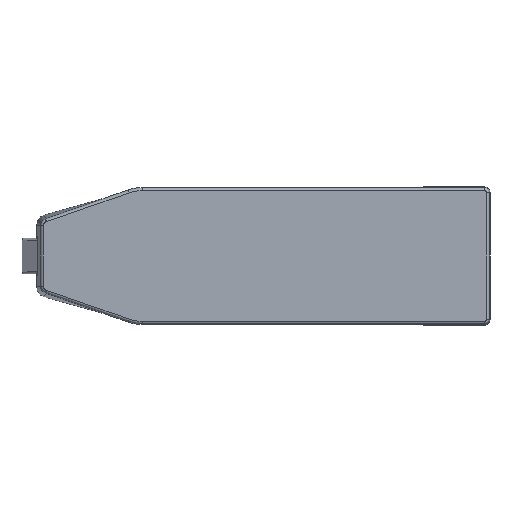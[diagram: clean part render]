
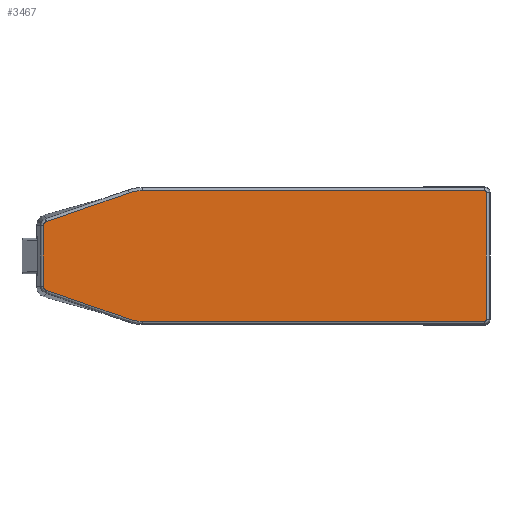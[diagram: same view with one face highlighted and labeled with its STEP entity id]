
A CAD part, front view. The second image highlights one B-rep face of the part: STEP entity #3467.
In plain terms, the highlighted planar face has unit normal (0, -1, 0).
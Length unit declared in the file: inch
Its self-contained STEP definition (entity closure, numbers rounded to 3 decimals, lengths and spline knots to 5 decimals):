
#10 = CARTESIAN_POINT ( 'NONE',  ( -3.88064, 0., 0.60984 ) ) ;
#35 = CARTESIAN_POINT ( 'NONE',  ( -2.17831, 0., 0.4575 ) ) ;
#74 = DIRECTION ( 'NONE',  ( 0., 0., 1. ) ) ;
#245 = DIRECTION ( 'NONE',  ( 0., -1., 0. ) ) ;
#314 = LINE ( 'NONE', #478, #532 ) ;
#315 = CARTESIAN_POINT ( 'NONE',  ( -3.88064, 0., 0.60984 ) ) ;
#320 = VERTEX_POINT ( 'NONE', #1459 ) ;
#399 = VERTEX_POINT ( 'NONE', #3869 ) ;
#415 = AXIS2_PLACEMENT_3D ( 'NONE', #763, #3005, #2625 ) ;
#439 = VERTEX_POINT ( 'NONE', #2204 ) ;
#478 = CARTESIAN_POINT ( 'NONE',  ( -3.93305, 0., -0.53613 ) ) ;
#532 = VECTOR ( 'NONE', #3647, 39.37008 ) ;
#563 = EDGE_LOOP ( 'NONE', ( #4815, #1745, #1523, #2840, #5059, #1005, #2330, #3151, #2435, #1307, #1201, #780 ) ) ;
#574 = VERTEX_POINT ( 'NONE', #315 ) ;
#636 = CARTESIAN_POINT ( 'NONE',  ( -3.855, 0., 0.53613 ) ) ;
#763 = CARTESIAN_POINT ( 'NONE',  ( 3.9, 0., 1.1275 ) ) ;
#780 = ORIENTED_EDGE ( 'NONE', *, *, #3107, .T. ) ;
#797 = DIRECTION ( 'NONE',  ( -0.945, 0., -0.328 ) ) ;
#810 = EDGE_CURVE ( 'NONE', #574, #399, #1726, .T. ) ;
#817 = DIRECTION ( 'NONE',  ( 0., 0., -1. ) ) ;
#866 = AXIS2_PLACEMENT_3D ( 'NONE', #35, #3303, #2820 ) ;
#1005 = ORIENTED_EDGE ( 'NONE', *, *, #3971, .T. ) ;
#1092 = CIRCLE ( 'NONE', #3661, 0.03305 ) ;
#1124 = VERTEX_POINT ( 'NONE', #2187 ) ;
#1131 = VERTEX_POINT ( 'NONE', #2958 ) ;
#1185 = VECTOR ( 'NONE', #797, 39.37008 ) ;
#1201 = ORIENTED_EDGE ( 'NONE', *, *, #2392, .T. ) ;
#1307 = ORIENTED_EDGE ( 'NONE', *, *, #3483, .T. ) ;
#1377 = CARTESIAN_POINT ( 'NONE',  ( 3.9, 0., -1.16055 ) ) ;
#1389 = CARTESIAN_POINT ( 'NONE',  ( -2.17831, 0., 1.16055 ) ) ;
#1404 = VERTEX_POINT ( 'NONE', #3955 ) ;
#1434 = EDGE_CURVE ( 'NONE', #1404, #5040, #1644, .T. ) ;
#1459 = CARTESIAN_POINT ( 'NONE',  ( 3.9, 0., -1.16055 ) ) ;
#1506 = EDGE_CURVE ( 'NONE', #320, #1404, #1092, .T. ) ;
#1523 = ORIENTED_EDGE ( 'NONE', *, *, #3191, .T. ) ;
#1572 = CARTESIAN_POINT ( 'NONE',  ( 3.9, 0., 1.1275 ) ) ;
#1615 = AXIS2_PLACEMENT_3D ( 'NONE', #4350, #3477, #2795 ) ;
#1644 = LINE ( 'NONE', #1980, #2426 ) ;
#1726 = CIRCLE ( 'NONE', #3051, 0.07805 ) ;
#1745 = ORIENTED_EDGE ( 'NONE', *, *, #1434, .T. ) ;
#1909 = CARTESIAN_POINT ( 'NONE',  ( -2.40924, 0., -1.12154 ) ) ;
#1980 = CARTESIAN_POINT ( 'NONE',  ( 3.93305, 0., 1.1275 ) ) ;
#2008 = DIRECTION ( 'NONE',  ( 0., 0., -1. ) ) ;
#2128 = CARTESIAN_POINT ( 'NONE',  ( -2.17831, 0., -1.16055 ) ) ;
#2145 = AXIS2_PLACEMENT_3D ( 'NONE', #1572, #2744, #2008 ) ;
#2187 = CARTESIAN_POINT ( 'NONE',  ( -3.88064, 0., -0.60984 ) ) ;
#2195 = CARTESIAN_POINT ( 'NONE',  ( -2.40924, 0., -1.12154 ) ) ;
#2204 = CARTESIAN_POINT ( 'NONE',  ( -2.17831, 0., 1.16055 ) ) ;
#2274 = VECTOR ( 'NONE', #2964, 39.37008 ) ;
#2330 = ORIENTED_EDGE ( 'NONE', *, *, #810, .T. ) ;
#2364 = VERTEX_POINT ( 'NONE', #4030 ) ;
#2392 = EDGE_CURVE ( 'NONE', #2700, #5091, #4717, .T. ) ;
#2426 = VECTOR ( 'NONE', #74, 39.37008 ) ;
#2435 = ORIENTED_EDGE ( 'NONE', *, *, #4636, .T. ) ;
#2509 = CARTESIAN_POINT ( 'NONE',  ( -2.17831, 0., -0.4575 ) ) ;
#2625 = DIRECTION ( 'NONE',  ( 0., 0., -1. ) ) ;
#2700 = VERTEX_POINT ( 'NONE', #2195 ) ;
#2744 = DIRECTION ( 'NONE',  ( 0., -1., 0. ) ) ;
#2795 = DIRECTION ( 'NONE',  ( 0., 0., -1. ) ) ;
#2820 = DIRECTION ( 'NONE',  ( 0., 0., -1. ) ) ;
#2840 = ORIENTED_EDGE ( 'NONE', *, *, #4062, .T. ) ;
#2857 = DIRECTION ( 'NONE',  ( 0., 0., -1. ) ) ;
#2917 = LINE ( 'NONE', #1389, #2274 ) ;
#2958 = CARTESIAN_POINT ( 'NONE',  ( 3.9, 0., 1.16055 ) ) ;
#2964 = DIRECTION ( 'NONE',  ( -1., 0., 0. ) ) ;
#3005 = DIRECTION ( 'NONE',  ( 0., -1., 0. ) ) ;
#3051 = AXIS2_PLACEMENT_3D ( 'NONE', #636, #245, #4953 ) ;
#3107 = EDGE_CURVE ( 'NONE', #5091, #320, #4914, .T. ) ;
#3145 = LINE ( 'NONE', #1909, #4629 ) ;
#3151 = ORIENTED_EDGE ( 'NONE', *, *, #4721, .T. ) ;
#3166 = PLANE ( 'NONE',  #2145 ) ;
#3191 = EDGE_CURVE ( 'NONE', #5040, #1131, #4383, .T. ) ;
#3303 = DIRECTION ( 'NONE',  ( 0., -1., 0. ) ) ;
#3363 = DIRECTION ( 'NONE',  ( 1., 0., 0. ) ) ;
#3467 = ADVANCED_FACE ( 'NONE', ( #4340 ), #3166, .T. ) ;
#3477 = DIRECTION ( 'NONE',  ( 0., -1., 0. ) ) ;
#3480 = VECTOR ( 'NONE', #3363, 39.37008 ) ;
#3483 = EDGE_CURVE ( 'NONE', #1124, #2700, #3145, .T. ) ;
#3514 = DIRECTION ( 'NONE',  ( 0.945, 0., -0.328 ) ) ;
#3561 = CARTESIAN_POINT ( 'NONE',  ( 3.9, 0., -1.1275 ) ) ;
#3647 = DIRECTION ( 'NONE',  ( 0., 0., -1. ) ) ;
#3661 = AXIS2_PLACEMENT_3D ( 'NONE', #3561, #5130, #2857 ) ;
#3763 = CIRCLE ( 'NONE', #1615, 0.07805 ) ;
#3869 = CARTESIAN_POINT ( 'NONE',  ( -3.93305, 0., 0.53613 ) ) ;
#3947 = LINE ( 'NONE', #10, #1185 ) ;
#3955 = CARTESIAN_POINT ( 'NONE',  ( 3.93305, 0., -1.1275 ) ) ;
#3971 = EDGE_CURVE ( 'NONE', #4729, #574, #3947, .T. ) ;
#4030 = CARTESIAN_POINT ( 'NONE',  ( -3.93305, 0., -0.53613 ) ) ;
#4062 = EDGE_CURVE ( 'NONE', #1131, #439, #2917, .T. ) ;
#4230 = CARTESIAN_POINT ( 'NONE',  ( 3.93305, 0., 1.1275 ) ) ;
#4311 = AXIS2_PLACEMENT_3D ( 'NONE', #2509, #4365, #817 ) ;
#4340 = FACE_OUTER_BOUND ( 'NONE', #563, .T. ) ;
#4350 = CARTESIAN_POINT ( 'NONE',  ( -3.855, 0., -0.53613 ) ) ;
#4365 = DIRECTION ( 'NONE',  ( 0., -1., 0. ) ) ;
#4383 = CIRCLE ( 'NONE', #415, 0.03305 ) ;
#4448 = EDGE_CURVE ( 'NONE', #439, #4729, #4589, .T. ) ;
#4589 = CIRCLE ( 'NONE', #866, 0.70305 ) ;
#4629 = VECTOR ( 'NONE', #3514, 39.37008 ) ;
#4636 = EDGE_CURVE ( 'NONE', #2364, #1124, #3763, .T. ) ;
#4717 = CIRCLE ( 'NONE', #4311, 0.70305 ) ;
#4721 = EDGE_CURVE ( 'NONE', #399, #2364, #314, .T. ) ;
#4729 = VERTEX_POINT ( 'NONE', #4802 ) ;
#4802 = CARTESIAN_POINT ( 'NONE',  ( -2.40924, 0., 1.12154 ) ) ;
#4815 = ORIENTED_EDGE ( 'NONE', *, *, #1506, .T. ) ;
#4914 = LINE ( 'NONE', #1377, #3480 ) ;
#4953 = DIRECTION ( 'NONE',  ( 0., 0., -1. ) ) ;
#5040 = VERTEX_POINT ( 'NONE', #4230 ) ;
#5059 = ORIENTED_EDGE ( 'NONE', *, *, #4448, .T. ) ;
#5091 = VERTEX_POINT ( 'NONE', #2128 ) ;
#5130 = DIRECTION ( 'NONE',  ( 0., -1., 0. ) ) ;
